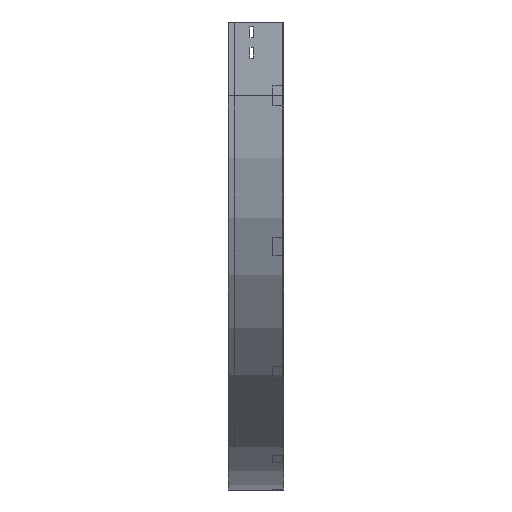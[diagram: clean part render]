
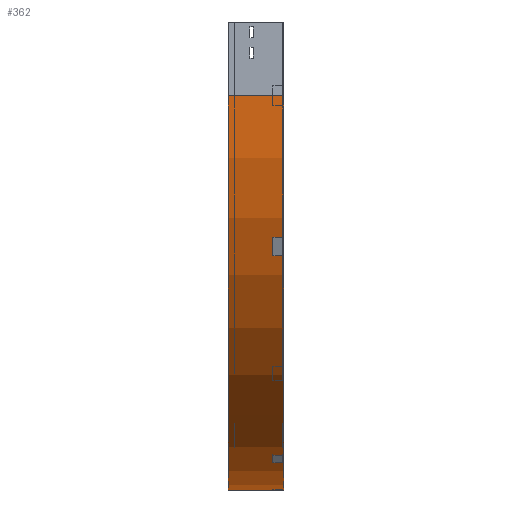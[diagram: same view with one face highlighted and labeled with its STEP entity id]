
A CAD part, left-side view. The second image highlights one B-rep face of the part: STEP entity #362.
In plain terms, the highlighted cylindrical face has radius 800 mm (diameter 1600 mm), a partial arc.
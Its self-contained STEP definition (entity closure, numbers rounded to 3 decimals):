
#6 = VERTEX_POINT ( 'NONE', #2583 ) ;
#71 = DIRECTION ( 'NONE',  ( 0., -1., 0. ) ) ;
#205 = CIRCLE ( 'NONE', #2709, 800. ) ;
#362 = ADVANCED_FACE ( 'NONE', ( #1345 ), #3659, .T. ) ;
#580 = VERTEX_POINT ( 'NONE', #3601 ) ;
#671 = VECTOR ( 'NONE', #3332, 1000. ) ;
#881 = AXIS2_PLACEMENT_3D ( 'NONE', #3738, #1859, #2169 ) ;
#915 = EDGE_LOOP ( 'NONE', ( #1258, #1523, #1166, #2465 ) ) ;
#989 = CARTESIAN_POINT ( 'NONE',  ( 0., 112.5, -150. ) ) ;
#1166 = ORIENTED_EDGE ( 'NONE', *, *, #1960, .T. ) ;
#1258 = ORIENTED_EDGE ( 'NONE', *, *, #2252, .F. ) ;
#1345 = FACE_OUTER_BOUND ( 'NONE', #915, .T. ) ;
#1523 = ORIENTED_EDGE ( 'NONE', *, *, #2192, .F. ) ;
#1641 = CARTESIAN_POINT ( 'NONE',  ( 800., 0., -950. ) ) ;
#1669 = AXIS2_PLACEMENT_3D ( 'NONE', #2491, #71, #3385 ) ;
#1834 = LINE ( 'NONE', #2121, #671 ) ;
#1859 = DIRECTION ( 'NONE',  ( 0., -1., 0. ) ) ;
#1874 = LINE ( 'NONE', #1641, #3106 ) ;
#1960 = EDGE_CURVE ( 'NONE', #3160, #580, #205, .T. ) ;
#2010 = CARTESIAN_POINT ( 'NONE',  ( 800., 0., -950. ) ) ;
#2121 = CARTESIAN_POINT ( 'NONE',  ( 0., 0., -150. ) ) ;
#2169 = DIRECTION ( 'NONE',  ( 0., 0., -1. ) ) ;
#2192 = EDGE_CURVE ( 'NONE', #3160, #6, #1834, .T. ) ;
#2224 = DIRECTION ( 'NONE',  ( 0., -1., 0. ) ) ;
#2252 = EDGE_CURVE ( 'NONE', #6, #2790, #2544, .T. ) ;
#2465 = ORIENTED_EDGE ( 'NONE', *, *, #3159, .T. ) ;
#2491 = CARTESIAN_POINT ( 'NONE',  ( 800., 0., -150. ) ) ;
#2517 = CARTESIAN_POINT ( 'NONE',  ( 800., 112.5, -150. ) ) ;
#2544 = CIRCLE ( 'NONE', #1669, 800. ) ;
#2583 = CARTESIAN_POINT ( 'NONE',  ( 0., 0., -150. ) ) ;
#2709 = AXIS2_PLACEMENT_3D ( 'NONE', #2517, #2224, #2814 ) ;
#2790 = VERTEX_POINT ( 'NONE', #2010 ) ;
#2814 = DIRECTION ( 'NONE',  ( -1., 0., 0. ) ) ;
#3106 = VECTOR ( 'NONE', #3377, 1000. ) ;
#3159 = EDGE_CURVE ( 'NONE', #580, #2790, #1874, .T. ) ;
#3160 = VERTEX_POINT ( 'NONE', #989 ) ;
#3332 = DIRECTION ( 'NONE',  ( 0., -1., 0. ) ) ;
#3377 = DIRECTION ( 'NONE',  ( 0., -1., 0. ) ) ;
#3385 = DIRECTION ( 'NONE',  ( -1., 0., 0. ) ) ;
#3601 = CARTESIAN_POINT ( 'NONE',  ( 800., 112.5, -950. ) ) ;
#3659 = CYLINDRICAL_SURFACE ( 'NONE', #881, 800. ) ;
#3738 = CARTESIAN_POINT ( 'NONE',  ( 800., 0., -150. ) ) ;
